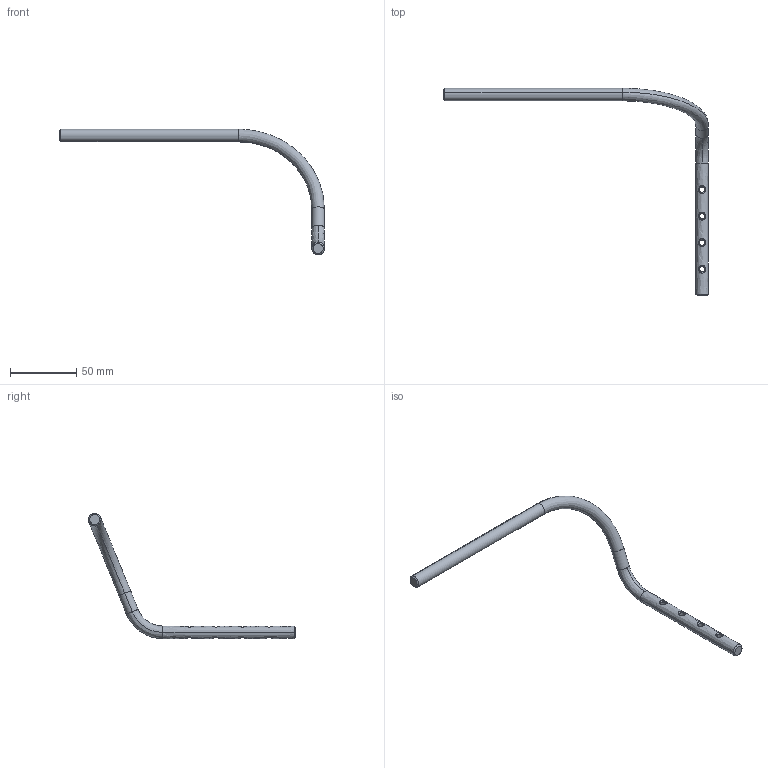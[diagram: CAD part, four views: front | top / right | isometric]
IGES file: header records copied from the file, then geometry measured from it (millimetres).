
Start section: START RECORD GO HERE.
Global section: file name: 1360.000.006.000.SOPORTE_MUSLO.igs; native system: DASSAULT SYSTEMES CATIA Version 5-6 Release 2018 - www.3ds.com; preprocessor: V5-6R2018_5.28.6.0.03-10-2020.20.00; author: Pc; organization: DESKTOP-CAESKE4; date: 20241108.095725; units: millimetre
Bounding box: 199.76 x 156.23 x 94.54 mm (x, y, z)
Surface area: 11782.3 mm2 (no closed solid volume)
Topology: 0 solids, 0 shells, 50 faces, 236 edges, 236 vertices
Faces by surface type: revolution 29, bspline 16, plane 5
